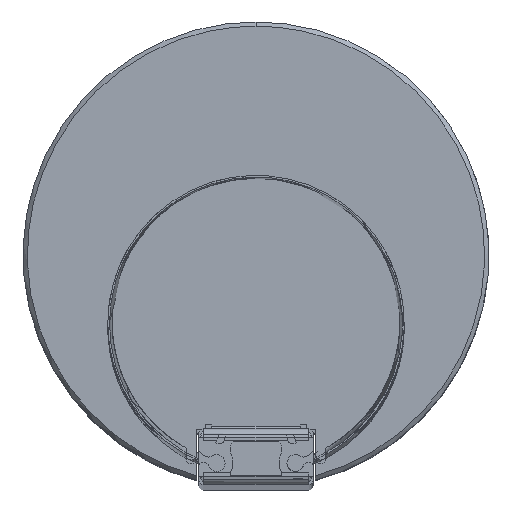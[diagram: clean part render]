
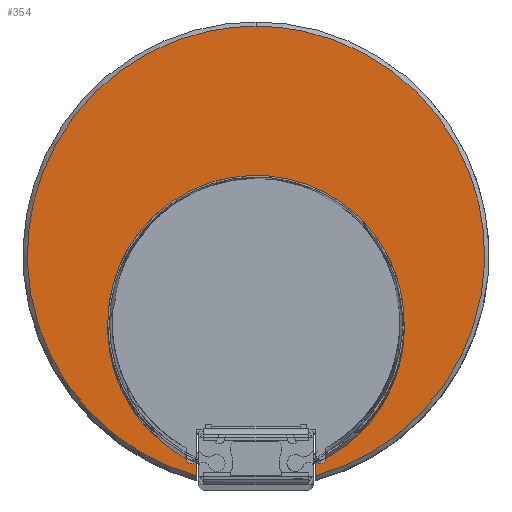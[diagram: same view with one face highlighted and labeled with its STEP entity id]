
A CAD part, top view. The second image highlights one B-rep face of the part: STEP entity #354.
In plain terms, the highlighted planar face has unit normal (0, 0, 1).
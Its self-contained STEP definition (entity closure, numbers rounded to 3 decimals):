
#354=ADVANCED_FACE('',(#672),#5253,.T.);
#672=FACE_OUTER_BOUND('',#1007,.T.);
#1007=EDGE_LOOP('',(#2686,#2687,#2688,#2689,#2690));
#2686=ORIENTED_EDGE('',*,*,#3622,.T.);
#2687=ORIENTED_EDGE('',*,*,#3639,.T.);
#2688=ORIENTED_EDGE('',*,*,#3601,.F.);
#2689=ORIENTED_EDGE('',*,*,#3623,.T.);
#2690=ORIENTED_EDGE('',*,*,#3624,.T.);
#3601=EDGE_CURVE('',#5070,#5071,#4519,.T.);
#3622=EDGE_CURVE('',#5088,#5089,#4223,.T.);
#3623=EDGE_CURVE('',#5070,#5090,#4224,.T.);
#3624=EDGE_CURVE('',#5090,#5088,#4225,.T.);
#3639=EDGE_CURVE('',#5089,#5071,#4533,.T.);
#4223=B_SPLINE_CURVE_WITH_KNOTS('',1,(#11855,#11856),.UNSPECIFIED.,.F.,
 .F.,(2,2),(0.,9.954),.UNSPECIFIED.);
#4224=B_SPLINE_CURVE_WITH_KNOTS('',1,(#11857,#11858),.UNSPECIFIED.,.F.,
 .F.,(2,2),(0.,9.954),.UNSPECIFIED.);
#4225=B_SPLINE_CURVE_WITH_KNOTS('',1,(#11859,#11860),.UNSPECIFIED.,.F.,
 .F.,(2,2),(0.,28.),.UNSPECIFIED.);
#4519=(
BOUNDED_CURVE()
B_SPLINE_CURVE(2,(#11786,#11787,#11788,#11789,#11790),.UNSPECIFIED.,.F.,
 .F.)
B_SPLINE_CURVE_WITH_KNOTS((3,2,3),(0.,77.742,155.484),
 .UNSPECIFIED.)
CURVE()
GEOMETRIC_REPRESENTATION_ITEM()
RATIONAL_B_SPLINE_CURVE((1.,0.752,1.,0.752,1.))
REPRESENTATION_ITEM('')
);
#4533=(
BOUNDED_CURVE()
B_SPLINE_CURVE(2,(#11916,#11917,#11918,#11919,#11920),.UNSPECIFIED.,.F.,
 .F.)
B_SPLINE_CURVE_WITH_KNOTS((3,2,3),(-155.484,-77.742,
0.),.UNSPECIFIED.)
CURVE()
GEOMETRIC_REPRESENTATION_ITEM()
RATIONAL_B_SPLINE_CURVE((1.,0.752,1.,0.752,1.))
REPRESENTATION_ITEM('')
);
#5070=VERTEX_POINT('',#11761);
#5071=VERTEX_POINT('',#11762);
#5088=VERTEX_POINT('',#11779);
#5089=VERTEX_POINT('',#11780);
#5090=VERTEX_POINT('',#11781);
#5253=PLANE('',#5583);
#5583=AXIS2_PLACEMENT_3D('',#11648,#5739,$);
#5739=DIRECTION('',(0.,0.,1.));
#11648=CARTESIAN_POINT('',(-71.673,64.915,76.2));
#11761=CARTESIAN_POINT('',(-14.,-51.854,76.2));
#11762=CARTESIAN_POINT('',(0.,54.3,76.2));
#11779=CARTESIAN_POINT('',(14.,-41.9,76.2));
#11780=CARTESIAN_POINT('',(14.,-51.854,76.2));
#11781=CARTESIAN_POINT('',(-14.,-41.9,76.2));
#11786=CARTESIAN_POINT('',(-14.,-51.854,76.2));
#11787=CARTESIAN_POINT('',(-59.727,-39.579,76.2));
#11788=CARTESIAN_POINT('',(-53.536,7.361,76.2));
#11789=CARTESIAN_POINT('',(-47.346,54.3,76.2));
#11790=CARTESIAN_POINT('',(0.,54.3,76.2));
#11855=CARTESIAN_POINT('',(14.,-41.9,76.2));
#11856=CARTESIAN_POINT('',(14.,-51.854,76.2));
#11857=CARTESIAN_POINT('',(-14.,-51.854,76.2));
#11858=CARTESIAN_POINT('',(-14.,-41.9,76.2));
#11859=CARTESIAN_POINT('',(-14.,-41.9,76.2));
#11860=CARTESIAN_POINT('',(14.,-41.9,76.2));
#11916=CARTESIAN_POINT('',(14.,-51.854,76.2));
#11917=CARTESIAN_POINT('',(59.727,-39.579,76.2));
#11918=CARTESIAN_POINT('',(53.536,7.361,76.2));
#11919=CARTESIAN_POINT('',(47.346,54.3,76.2));
#11920=CARTESIAN_POINT('',(0.,54.3,76.2));
